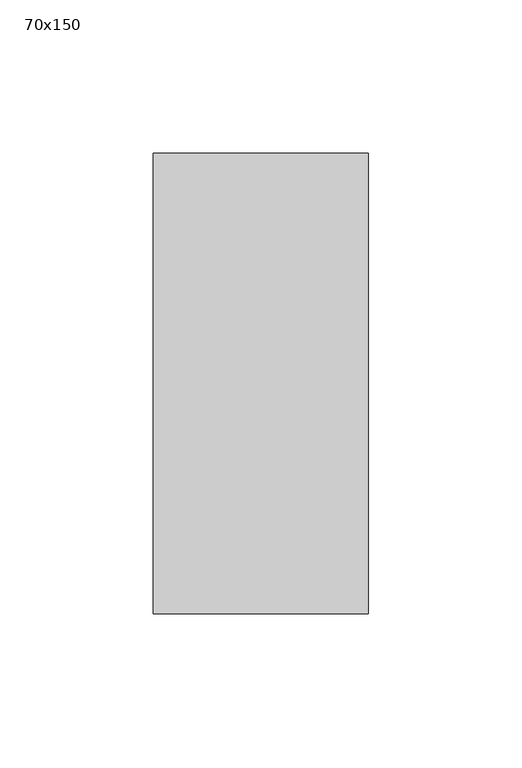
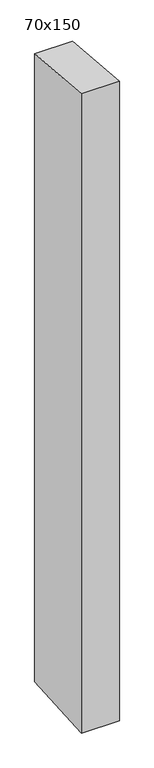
"""IFC4 building model written with IfcOpenShell, lengths in millimetres: member geometry, 長方形のマリオン : 70x150."""

from ifc_helpers import new_model, si_unit, frame, origin, place, context, project, spatial, polyline, outline, extrude, source, transform, mapped, element, save


def member_70x150_d3b90ac0(model_context):
    return source(origin(), model_context, "Body", "SweptSolid", [
        extrude(outline(polyline([(-75.0, 6.0757039), (75.0, -6.0757039), (75.0, -1234.4921474), (-75.0, -1244.3868567), (-75.0, 6.0757039)])), frame((-70.0, 0.0, 0.0), z_axis=(1.0, 0.0, 0.0), x_axis=(0.0, 1.0, 0.0)), (0.0, 0.0, 1.0), 70.0),
    ])


if __name__ == "__main__":
    model = new_model("IFC4")
    model_context = context("Model", 3, world=origin())
    ifc_project = project(units=[si_unit("LENGTHUNIT", "METRE", prefix="MILLI")], contexts=[model_context])
    site = spatial("IfcSite", under=ifc_project)
    building = spatial("IfcBuilding", under=site)
    placement = place(None, origin())
    member_70x150_shape = member_70x150_d3b90ac0(model_context)
    element("IfcMember", 1, ObjectType="長方形のマリオン : 70x150", at=placement, inside=building, context=model_context, shape_type="MappedRepresentation", body=[
        mapped(member_70x150_shape, transform((0.0, 0.0, 0.0), x_axis=(1.0, 0.0, 0.0), y_axis=(0.0, 1.0, 0.0), z_axis=(0.0, 0.0, 1.0))),
    ])
    save(model, "model.ifc")
